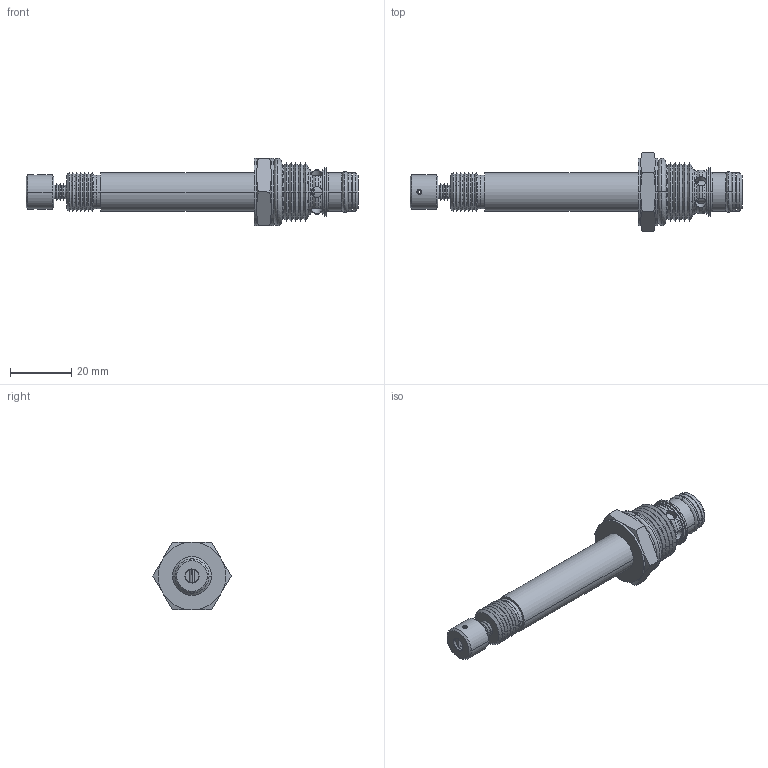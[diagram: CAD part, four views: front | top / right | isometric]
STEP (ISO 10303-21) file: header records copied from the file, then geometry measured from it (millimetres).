
FILE_DESCRIPTION((''),'2;1');
FILE_NAME('U:\Solid model CD\Solid model full\Solenoid\STEP\PBS2C0K-3D Full.stp','2008-06-23T11:31:11',('Dan'),(''),'Autodesk Inventor 9','Autodesk Inventor 9','');
FILE_SCHEMA(('AUTOMOTIVE_DESIGN { 1 0 10303 214 1 1 1 1 }'));
Length unit declared in the file: inch
Products named in the file (7): PBS2C0K-3D Full; PBS2C0K-3D Full1; PBS2C0K-3D Full2; PBS2C0K-3D Full3; PBS2C0K-3D Full4; PBS2C0K-3D Full5; PBS2C0K-3D Full6
Assembly tree (6 placements, depth 2):
  PBS2C0K-3D Full
    PBS2C0K-3D Full1
    PBS2C0K-3D Full2
    PBS2C0K-3D Full3
    PBS2C0K-3D Full4
    PBS2C0K-3D Full5
    PBS2C0K-3D Full6
Bounding box: 108.77 x 25.66 x 22.23 mm (x, y, z)
Volume: 15864.8 mm3; surface area: 8221 mm2
Topology: 6 solids, 6 shells, 344 faces, 816 edges, 490 vertices
Faces by surface type: cone 150, bspline 148, cylinder 26, plane 18, torus 2
Entity records: 12844 total; most frequent: CARTESIAN_POINT 5345, ORIENTED_EDGE 1632, DIRECTION 1472, EDGE_CURVE 816, AXIS2_PLACEMENT_3D 615, VERTEX_POINT 490, CIRCLE 406, EDGE_LOOP 374
